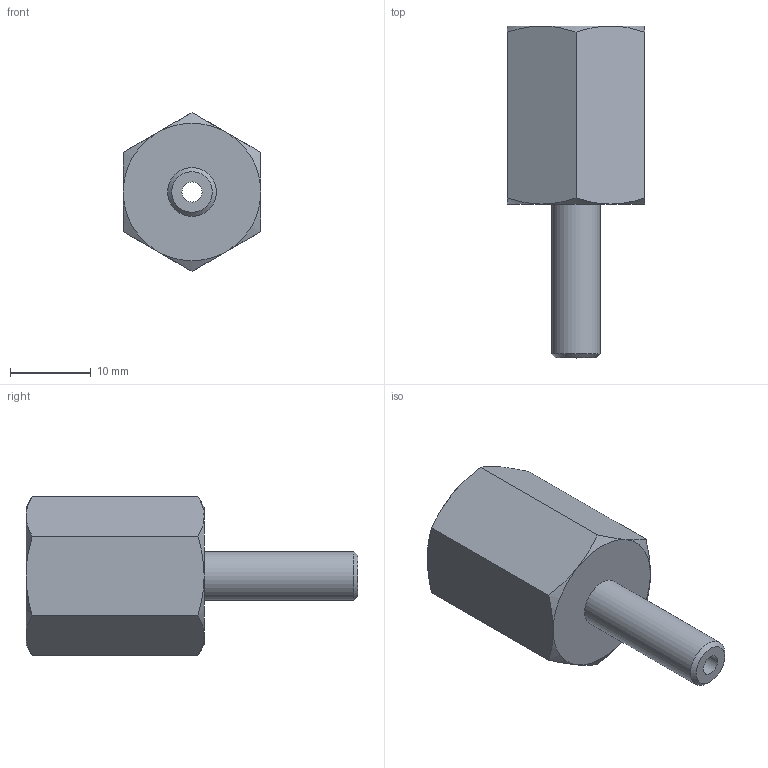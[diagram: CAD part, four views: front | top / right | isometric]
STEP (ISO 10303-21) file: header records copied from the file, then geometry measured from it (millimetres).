
FILE_DESCRIPTION(/* description */ (''),/* implementation_level */ '2;1');
FILE_NAME(/* name */ '351-SS-DIN16284-008-6mm.stp',/* time_stamp */ '2024-07-01T20:00:00+02:00',/* author */ ('roger.thijssen'),/* organization */ (''),/* preprocessor_version */ 'ST-DEVELOPER v20',/* originating_system */ 'Autodesk Inventor 2024',/* authorisation */ '');
FILE_SCHEMA (('AUTOMOTIVE_DESIGN { 1 0 10303 214 3 1 1 }'));
Length unit declared in the file: millimetre
Products named in the file (1): 351-SS-DIN16284-008-6mm
Bounding box: 17 x 41 x 19.63 mm (x, y, z)
Volume: 4676.2 mm3; surface area: 2784 mm2
Topology: 1 solids, 1 shells, 28 faces, 57 edges, 34 vertices
Faces by surface type: cone 13, plane 11, cylinder 4
Full cylindrical faces by diameter (mm): 2.5 x1, 5.5 x1, 6 x1, 11.445 x1
Entity records: 787 total; most frequent: CARTESIAN_POINT 168, ORIENTED_EDGE 114, DIRECTION 113, EDGE_CURVE 57, AXIS2_PLACEMENT_3D 51, VERTEX_POINT 34, EDGE_LOOP 33, STYLED_ITEM 29
